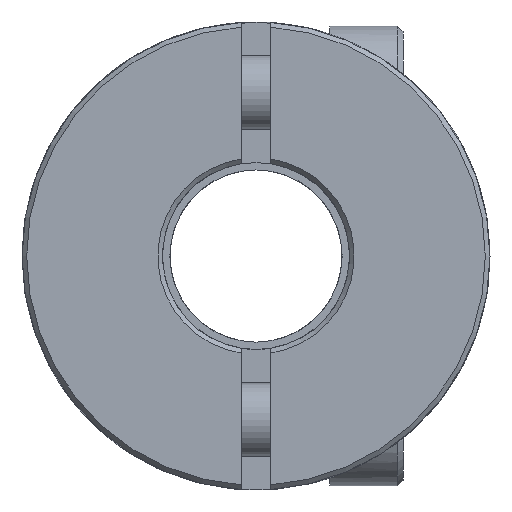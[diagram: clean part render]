
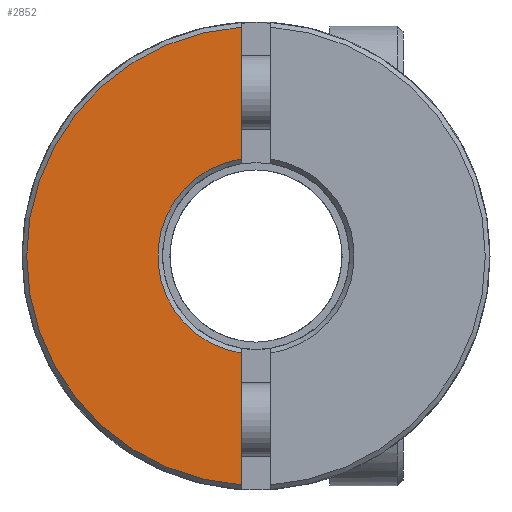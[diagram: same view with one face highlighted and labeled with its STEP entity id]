
A CAD part, front view. The second image highlights one B-rep face of the part: STEP entity #2852.
In plain terms, the highlighted planar face has unit normal (0, -1, 0).
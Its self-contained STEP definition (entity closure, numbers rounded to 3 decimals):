
#1=DIRECTION('',(0.,0.,-1.));
#2=VECTOR('',#1,4.477);
#3=CARTESIAN_POINT('',(-0.5,-11.,7.774));
#4=LINE('',#3,#2);
#5=DIRECTION('',(0.,0.,-1.));
#6=VECTOR('',#5,4.477);
#7=CARTESIAN_POINT('',(-0.5,-11.,-3.297));
#8=LINE('',#7,#6);
#1945=CARTESIAN_POINT('',(0.,-11.,0.));
#1946=DIRECTION('',(0.,1.,0.));
#1947=DIRECTION('',(-0.15,0.,-0.989));
#1948=AXIS2_PLACEMENT_3D('',#1945,#1946,#1947);
#1981=CARTESIAN_POINT('',(0.,-11.,0.));
#1982=DIRECTION('',(0.,-1.,0.));
#1983=DIRECTION('',(-0.064,0.,0.998));
#1984=AXIS2_PLACEMENT_3D('',#1981,#1982,#1983);
#2583=CARTESIAN_POINT('',(-0.5,-11.,7.774));
#2584=CARTESIAN_POINT('',(-0.5,-11.,3.297));
#2585=VERTEX_POINT('',#2583);
#2586=VERTEX_POINT('',#2584);
#2587=CARTESIAN_POINT('',(-0.5,-11.,-3.297));
#2588=CARTESIAN_POINT('',(-0.5,-11.,-7.774));
#2589=VERTEX_POINT('',#2587);
#2590=VERTEX_POINT('',#2588);
#2837=CARTESIAN_POINT('',(0.,-11.,0.));
#2838=DIRECTION('',(0.,1.,0.));
#2839=DIRECTION('',(1.,0.,0.));
#2840=AXIS2_PLACEMENT_3D('',#2837,#2838,#2839);
#2841=PLANE('',#2840);
#2843=ORIENTED_EDGE('',*,*,#2842,.T.);
#2845=ORIENTED_EDGE('',*,*,#2844,.F.);
#2847=ORIENTED_EDGE('',*,*,#2846,.T.);
#2849=ORIENTED_EDGE('',*,*,#2848,.F.);
#2850=EDGE_LOOP('',(#2843,#2845,#2847,#2849));
#2851=FACE_OUTER_BOUND('',#2850,.F.);
#2852=ADVANCED_FACE('',(#2851),#2841,.F.);
#1949=CIRCLE('',#1948,3.335);
#1985=CIRCLE('',#1984,7.79);
#2842=EDGE_CURVE('',#2585,#2586,#4,.T.);
#2844=EDGE_CURVE('',#2589,#2586,#1949,.T.);
#2846=EDGE_CURVE('',#2589,#2590,#8,.T.);
#2848=EDGE_CURVE('',#2585,#2590,#1985,.T.);
